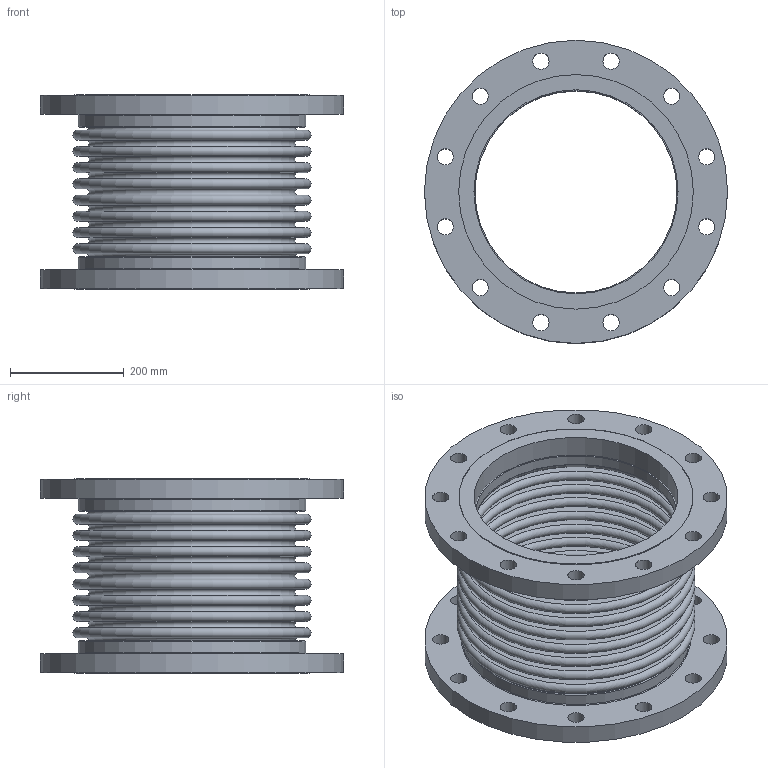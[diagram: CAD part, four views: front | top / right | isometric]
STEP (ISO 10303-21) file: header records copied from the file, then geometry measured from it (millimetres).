
FILE_DESCRIPTION(/* description */ ('EXPANSION JOINT,SINGLE, FLANGED ENDS,14 INCH','CAx-IF Rec.Pracs.---Representation and Presentation of Product Manufacturing Information (PMI)---4.0---2014-10-13'),/* implementation_level */ '2;1');
FILE_NAME(/* name */ 'US-14-8-300S-FLANGED ENDS.stp',/* time_stamp */ '2026-07-31T17:29:46-05:00',/* author */ ('Guadalupe'),/* organization */ (''),/* preprocessor_version */ 'ST-DEVELOPER v20.1',/* originating_system */ 'Autodesk Inventor 2026',/* authorisation */ '');
FILE_SCHEMA (('AP242_MANAGED_MODEL_BASED_3D_ENGINEERING_MIM_LF { 1 0 10303 442 2 1 4 }'));
Length unit declared in the file: inch
Products named in the file (3): 14-300S; 14-300S-02; 14-300S-01
Assembly tree (3 placements, depth 2):
  14-300S
    14-300S-02  x2
    14-300S-01
Bounding box: 533.4 x 533.4 x 342.9 mm (x, y, z)
Volume: 11123789.2 mm3; surface area: 2368534.2 mm2
Topology: 5 solids, 5 shells, 120 faces, 222 edges, 148 vertices
Faces by surface type: plane 46, torus 38, cylinder 36
Full cylindrical faces by diameter (mm): 28.575 x24, 355.6 x2, 359.156 x2, 361.696 x2, 400.05 x2, 412.75 x2, 533.4 x2
Entity records: 2714 total; most frequent: DIRECTION 550, CARTESIAN_POINT 401, ORIENTED_EDGE 336, AXIS2_PLACEMENT_3D 265, EDGE_CURVE 168, EDGE_LOOP 164, CIRCLE 148, VERTEX_POINT 112
